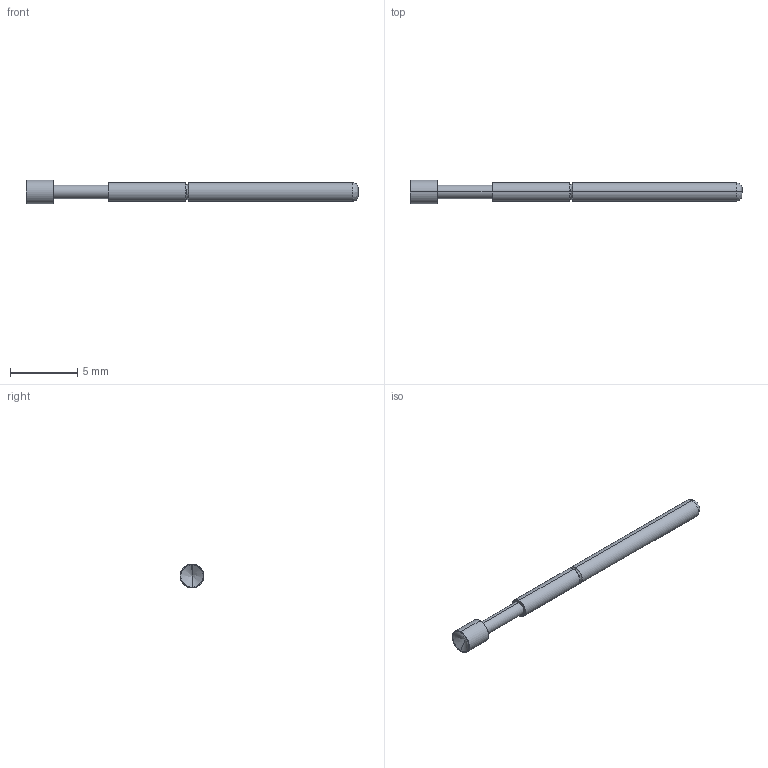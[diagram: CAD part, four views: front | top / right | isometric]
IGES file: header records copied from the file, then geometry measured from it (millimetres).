
Start section: SolidWorks IGES file using analytic representation for surfaces
Global section: file name: O:\PYLON\IGES FILES\P3158\P3158G-1V1S.IGS; native system: SolidWorks 2015; preprocessor: SolidWorks 2015; author: kgolden; date: 171020.071539; units: inch
Bounding box: 24.64 x 1.78 x 1.78 mm (x, y, z)
Surface area: 115.6 mm2 (no closed solid volume)
Topology: 0 solids, 0 shells, 22 faces, 216 edges, 214 vertices
Faces by surface type: revolution 12, bspline 10
